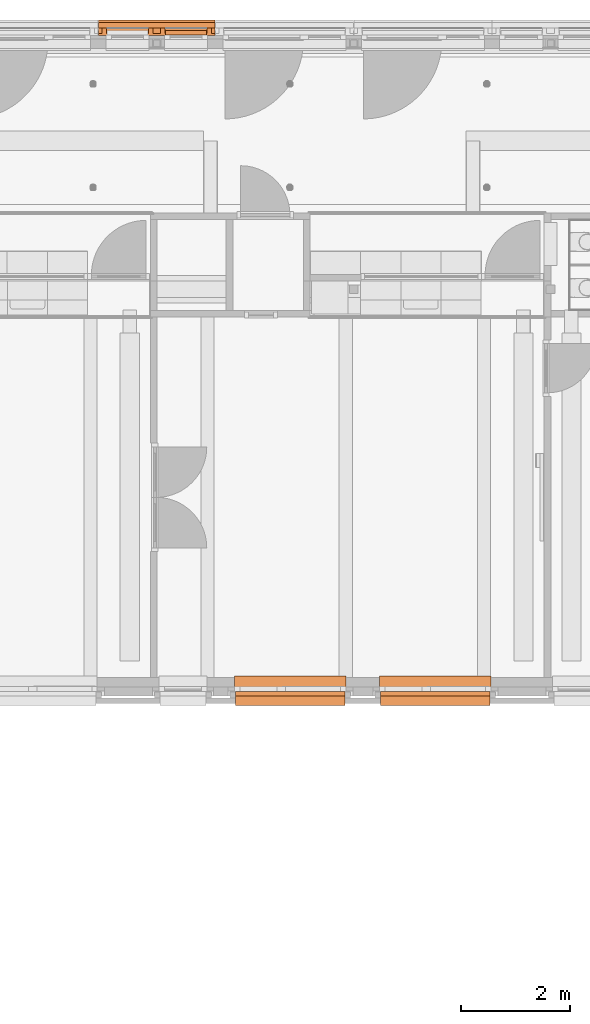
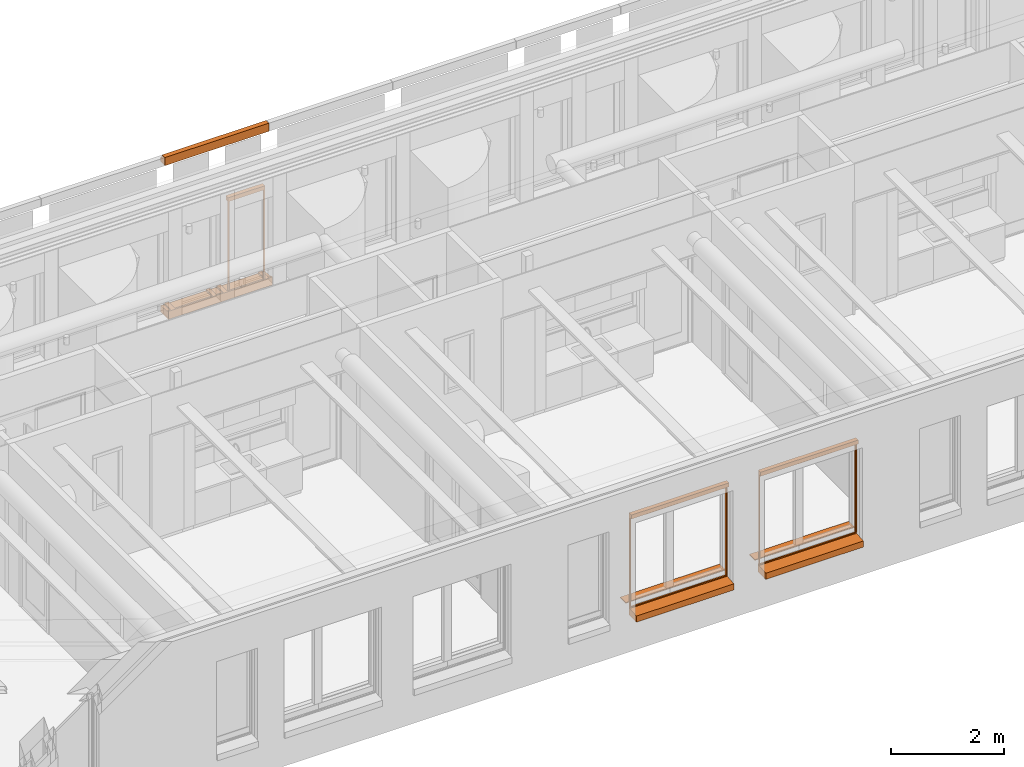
# One storey, part 113 of 128: 9 proxies.
"""IFC2X3 building model written with IfcOpenShell, lengths in millimetres."""

from ifc_helpers import new_model, entity, si_unit, converted_unit, derived_unit, direction, frame, frame_2d, origin, origin_2d_with_axis, place, context, subcontext, project, spatial, polyline, circle_curve, parameter, trimmed, segment, composite_curve, rectangle, outline, extrude, source, transform, mapped, material, material_list, type_object, type_shapes, element, save


model = new_model("IFC2X3")

# Units and contexts
model_context = context("Model", 3, precision=0.01, world=origin(), true_north=direction((6.123031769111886e-17, 1.0)))
body_context = subcontext(model_context, "Body", "Model", "MODEL_VIEW")
ifc_project = project(units=[si_unit("LENGTHUNIT", "METRE", prefix="MILLI"), si_unit("AREAUNIT", "SQUARE_METRE"), si_unit("VOLUMEUNIT", "CUBIC_METRE"), converted_unit("PLANEANGLEUNIT", "DEGREE", entity("IfcRatioMeasure", 0.017453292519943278), si_unit("PLANEANGLEUNIT", "RADIAN"), dimensions=[0, 0, 0, 0, 0, 0, 0]), si_unit("MASSUNIT", "GRAM", prefix="KILO"), derived_unit("MASSDENSITYUNIT", [(si_unit("MASSUNIT", "GRAM", prefix="KILO"), 1), (si_unit("LENGTHUNIT", "METRE"), -3)]), derived_unit("IONCONCENTRATIONUNIT", [(si_unit("MASSUNIT", "GRAM", prefix="KILO"), 1), (si_unit("LENGTHUNIT", "METRE"), -3)]), derived_unit("MOMENTOFINERTIAUNIT", [(si_unit("LENGTHUNIT", "METRE"), 4)]), si_unit("TIMEUNIT", "SECOND"), si_unit("FREQUENCYUNIT", "HERTZ"), si_unit("THERMODYNAMICTEMPERATUREUNIT", "DEGREE_CELSIUS"), derived_unit("THERMALTRANSMITTANCEUNIT", [(si_unit("MASSUNIT", "GRAM", prefix="KILO"), 1), (si_unit("THERMODYNAMICTEMPERATUREUNIT", "KELVIN"), -1), (si_unit("TIMEUNIT", "SECOND"), -3)]), derived_unit("THERMALCONDUCTANCEUNIT", [(si_unit("MASSUNIT", "GRAM", prefix="KILO"), 1), (si_unit("THERMODYNAMICTEMPERATUREUNIT", "KELVIN"), -1), (si_unit("TIMEUNIT", "SECOND"), -3), (si_unit("LENGTHUNIT", "METRE"), 1)]), derived_unit("VOLUMETRICFLOWRATEUNIT", [(si_unit("LENGTHUNIT", "METRE"), 3), (si_unit("TIMEUNIT", "SECOND"), -1)]), derived_unit("MASSFLOWRATEUNIT", [(si_unit("MASSUNIT", "GRAM", prefix="KILO"), 1), (si_unit("TIMEUNIT", "SECOND"), -1)]), derived_unit("ROTATIONALFREQUENCYUNIT", [(si_unit("TIMEUNIT", "SECOND"), -1)]), si_unit("ELECTRICCURRENTUNIT", "AMPERE"), si_unit("ELECTRICVOLTAGEUNIT", "VOLT"), si_unit("POWERUNIT", "WATT"), si_unit("FORCEUNIT", "NEWTON", prefix="KILO"), si_unit("ILLUMINANCEUNIT", "LUX"), si_unit("LUMINOUSFLUXUNIT", "LUMEN"), si_unit("LUMINOUSINTENSITYUNIT", "CANDELA"), derived_unit("USERDEFINED", [(si_unit("MASSUNIT", "GRAM", prefix="KILO"), -1), (si_unit("LENGTHUNIT", "METRE"), -2), (si_unit("TIMEUNIT", "SECOND"), 3), (si_unit("LUMINOUSFLUXUNIT", "LUMEN"), 1)]), derived_unit("USERDEFINED", [(si_unit("MASSUNIT", "GRAM", prefix="KILO"), 1), (si_unit("TIMEUNIT", "SECOND"), -3), (si_unit("LENGTHUNIT", "METRE"), 3), (si_unit("ELECTRICCURRENTUNIT", "AMPERE"), -2)]), derived_unit("SOUNDPOWERUNIT", [(si_unit("MASSUNIT", "GRAM", prefix="KILO"), 1), (si_unit("TIMEUNIT", "SECOND"), -3), (si_unit("LENGTHUNIT", "METRE"), 2)]), derived_unit("SOUNDPRESSUREUNIT", [(si_unit("MASSUNIT", "GRAM", prefix="KILO"), 1), (si_unit("LENGTHUNIT", "METRE"), -1), (si_unit("TIMEUNIT", "SECOND"), -2)]), derived_unit("LINEARVELOCITYUNIT", [(si_unit("LENGTHUNIT", "METRE"), 1), (si_unit("TIMEUNIT", "SECOND"), -1)]), si_unit("PRESSUREUNIT", "PASCAL"), derived_unit("USERDEFINED", [(si_unit("MASSUNIT", "GRAM", prefix="KILO"), 1), (si_unit("LENGTHUNIT", "METRE"), -2), (si_unit("TIMEUNIT", "SECOND"), -2)]), derived_unit("LINEARFORCEUNIT", [(si_unit("MASSUNIT", "GRAM", prefix="KILO"), 1), (si_unit("TIMEUNIT", "SECOND"), -2)]), derived_unit("PLANARFORCEUNIT", [(si_unit("MASSUNIT", "GRAM", prefix="KILO"), 1), (si_unit("LENGTHUNIT", "METRE"), -1), (si_unit("TIMEUNIT", "SECOND"), -2)]), derived_unit("SPECIFICHEATCAPACITYUNIT", [(si_unit("THERMODYNAMICTEMPERATUREUNIT", "KELVIN"), -1), (si_unit("LENGTHUNIT", "METRE"), 2), (si_unit("TIMEUNIT", "SECOND"), -2)]), derived_unit("HEATINGVALUEUNIT", [(si_unit("LENGTHUNIT", "METRE"), 2), (si_unit("TIMEUNIT", "SECOND"), -2)]), derived_unit("VAPORPERMEABILITYUNIT", [(si_unit("LENGTHUNIT", "METRE"), -1), (si_unit("TIMEUNIT", "SECOND"), 1)]), derived_unit("DYNAMICVISCOSITYUNIT", [(si_unit("MASSUNIT", "GRAM", prefix="KILO"), 1), (si_unit("TIMEUNIT", "SECOND"), -1), (si_unit("LENGTHUNIT", "METRE"), -1)]), derived_unit("THERMALEXPANSIONCOEFFICIENTUNIT", [(si_unit("THERMODYNAMICTEMPERATUREUNIT", "KELVIN"), -1)]), derived_unit("MODULUSOFELASTICITYUNIT", [(si_unit("MASSUNIT", "GRAM", prefix="KILO"), 1), (si_unit("LENGTHUNIT", "METRE"), -1), (si_unit("TIMEUNIT", "SECOND"), -2)]), derived_unit("ISOTHERMALMOISTURECAPACITYUNIT", [(si_unit("LENGTHUNIT", "METRE"), 3), (si_unit("MASSUNIT", "GRAM", prefix="KILO"), -1)]), derived_unit("MOISTUREDIFFUSIVITYUNIT", [(si_unit("TIMEUNIT", "SECOND"), -1), (si_unit("LENGTHUNIT", "METRE"), 2)])], contexts=[model_context])

# Site, building, storey
site_placement = place(None, frame((0.0, 300.0, 0.0)))
site = spatial("IfcSite", under=ifc_project, at=site_placement, Name="<Kadastrale nummers>", CompositionType="ELEMENT")
building_placement = place(site_placement, origin())
building = spatial("IfcBuilding", under=site, at=building_placement, CompositionType="ELEMENT")
storey_placement = place(building_placement, frame((0.0, 0.0, 3560.0000331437)))
storey = spatial("IfcBuildingStorey", under=building, at=storey_placement, Name="01 eerste verdieping", CompositionType="ELEMENT", Elevation=3560.0000331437)

# Proxies
ifc_material_1 = material(Name="STAAL_RAL 7006")
ifc_material_2 = material(Name="<Unnamed>")
ifc_material_list = material_list([ifc_material_1, ifc_material_2])
building_element_proxy_type_1 = type_object("IfcBuildingElementProxyType", Name="31_DAT_Screen_zonwering_bak85:31_DAT_Screen_zonwering_bak85", PredefinedType="NOTDEFINED", material=ifc_material_list)
shared_shape_1 = source(origin(), body_context, "Body", "SweptSolid", [
    extrude(outline(polyline([(-60.69864841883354, -53.573897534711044), (20.695945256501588, -53.573897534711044), (20.695945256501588, 1.1216926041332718), (22.501351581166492, 1.1216926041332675), (22.501351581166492, 24.626102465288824), (17.501351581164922, 24.626102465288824), (17.501351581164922, 27.826102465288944), (-60.69864841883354, 27.826102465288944), (-60.69864841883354, -53.573897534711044)])), frame((748.0, -29.62610246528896, 2752.501351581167), z_axis=(1.0, 0.0, 0.0), x_axis=(0.0, 0.0, -1.0)), (0.0, 0.0, 1.0), 1.9999999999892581),
    extrude(outline(polyline([(-55.83243227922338, -51.08259835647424), (29.167567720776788, -51.08259835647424), (29.167567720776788, 5.412991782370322), (27.362161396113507, 5.412991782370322), (27.362161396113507, -49.28259835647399), (-54.032432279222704, -49.28259835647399), (-54.032432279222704, 32.117401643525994), (24.16756772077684, 32.117401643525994), (24.16756772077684, 28.91740164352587), (29.167567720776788, 28.91740164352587), (29.167567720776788, 33.917401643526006), (-55.83243227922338, 33.917401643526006), (-55.83243227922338, -51.08259835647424)])), frame((0.0, -33.917401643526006, 2759.1675677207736), z_axis=(1.0, 0.0, 0.0), x_axis=(0.0, 0.0, -1.0)), (0.0, 0.0, 1.0), 749.9999999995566),
    extrude(outline(polyline([(-60.69864841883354, -53.573897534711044), (20.695945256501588, -53.573897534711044), (20.695945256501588, 1.1216926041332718), (22.501351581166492, 1.1216926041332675), (22.501351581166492, 24.626102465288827), (17.501351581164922, 24.626102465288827), (17.501351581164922, 27.826102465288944), (-60.69864841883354, 27.826102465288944), (-60.69864841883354, -53.573897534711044)])), frame((0.0, -29.62610246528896, 2752.501351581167), z_axis=(1.0, 0.0, 0.0), x_axis=(0.0, 0.0, -1.0)), (0.0, 0.0, 1.0), 1.999999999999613),
    extrude(rectangle(XDim=709.9999999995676, YDim=1.163311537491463, at=frame_2d((0.0, -2.1094237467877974e-15), x_axis=(1.0, 0.0))), frame((375.0, -20.037293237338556, 2730.0)), (0.0, 0.0, 1.0), 61.996041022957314),
    extrude(outline(composite_curve([segment(polyline([(-7.502327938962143, -23.023758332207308), (7.497672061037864, -23.023758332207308)]), True, "CONTINUOUS"), segment(trimmed(circle_curve(frame_2d((7.497672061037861, -21.523758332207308), x_axis=(0.0, -1.0)), 1.4999999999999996), [parameter(359.99999999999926)], [parameter(90.00000000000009)], True, "PARAMETER"), True, "CONTINUOUS"), segment(polyline([(8.997672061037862, -21.523758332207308), (8.997672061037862, 8.976241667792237)]), True, "CONTINUOUS"), segment(trimmed(circle_curve(frame_2d((5.99767206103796, 8.976241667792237), x_axis=(0.0, -1.0)), 3.0), [parameter(90.00000000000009)], [parameter(172.84454900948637)], True, "PARAMETER"), True, "CONTINUOUS"), segment(polyline([(6.371357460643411, 11.952877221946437), (2.232090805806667, 12.470504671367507)]), True, "CONTINUOUS"), segment(trimmed(circle_curve(frame_2d((2.1399803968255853, 11.733933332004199), x_axis=(0.0, -1.0)), 0.7423083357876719), [parameter(172.87199730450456)], [parameter(323.5235343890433)], True, "PARAMETER"), True, "CONTINUOUS"), segment(trimmed(circle_curve(frame_2d((-0.0023279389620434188, 8.976241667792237), x_axis=(0.0, -1.0)), 2.75), [parameter(217.47327986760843)], [parameter(141.78969998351)], True, "PARAMETER"), False, "CONTINUOUS"), segment(trimmed(circle_curve(frame_2d((-2.144636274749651, 11.733933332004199), x_axis=(0.0, -1.0)), 0.7423083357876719), [parameter(39.207114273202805)], [parameter(187.12800269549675)], True, "PARAMETER"), True, "CONTINUOUS"), segment(polyline([(-2.2367466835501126, 12.470504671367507), (-6.376013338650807, 11.95287722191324)]), True, "CONTINUOUS"), segment(trimmed(circle_curve(frame_2d((-6.002327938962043, 8.976241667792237), x_axis=(0.0, -1.0)), 3.0), [parameter(187.1554509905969)], [parameter(269.9999999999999)], True, "PARAMETER"), True, "CONTINUOUS"), segment(polyline([(-9.002327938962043, 8.976241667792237), (-9.002327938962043, -21.523758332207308)]), True, "CONTINUOUS"), segment(trimmed(circle_curve(frame_2d((-7.502327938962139, -21.523758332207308), x_axis=(0.0, -1.0)), 1.5000000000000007), [parameter(269.9999999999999)], [parameter(359.9999999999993)], True, "PARAMETER"), True, "CONTINUOUS")], self_intersect=False)), frame((20.0, -19.997672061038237, 2785.0197993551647), z_axis=(1.0, 0.0, 0.0), x_axis=(0.0, 1.0, 0.0)), (0.0, 0.0, 1.0), 709.9999999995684),
    extrude(outline(polyline([(-14.638298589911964, -16.231574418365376), (-13.138298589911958, -16.231574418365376), (-13.138298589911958, 12.232729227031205), (-6.116685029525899, 12.232729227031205), (-6.116685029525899, -6.231574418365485), (-1.116685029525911, -6.231574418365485), (-1.116685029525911, -4.769580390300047), (-4.579546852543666, -4.769580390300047), (-4.579546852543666, 12.23272922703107), (13.86611127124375, 12.23272922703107), (13.86611127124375, -4.769580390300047), (10.36170141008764, -4.769580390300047), (10.36170141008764, -6.2315744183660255), (15.36170141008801, -6.2315744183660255), (15.36170141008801, 13.768425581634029), (-14.638298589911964, 13.768425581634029), (-14.638298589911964, -16.231574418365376)])), frame((736.2315744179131, -14.638298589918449, 800.0), z_axis=(0.0, 0.0, 1.0), x_axis=(0.0, -1.0, 0.0)), (0.0, 0.0, 1.0), 1930.000000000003),
    extrude(outline(polyline([(-16.231574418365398, -14.638298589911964), (13.768425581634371, -14.638298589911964), (13.76842558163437, 15.361701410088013), (-6.231574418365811, 15.361701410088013), (-6.231574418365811, 10.361701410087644), (-4.769580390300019, 10.361701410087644), (-4.769580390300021, 13.866111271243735), (12.2327292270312, 13.866111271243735), (12.2327292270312, -4.57954685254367), (-4.769580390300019, -4.57954685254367), (-4.769580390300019, -1.1166850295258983), (-6.231574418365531, -1.1166850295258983), (-6.231574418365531, -6.116685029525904), (12.232729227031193, -6.116685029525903), (12.232729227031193, -13.138298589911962), (-16.231574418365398, -13.138298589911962), (-16.231574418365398, -14.638298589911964)])), frame((13.768425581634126, -14.638298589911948, 800.0), z_axis=(0.0, 0.0, 1.0), x_axis=(-1.0, 0.0, 0.0)), (0.0, 0.0, 1.0), 1930.0000000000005),
])
type_shapes(building_element_proxy_type_1, [shared_shape_1])
proxy_1_placement = place(storey_placement, frame((18310.0, 49951.0, 100.00000187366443), z_axis=(0.0, 0.0, 1.0), x_axis=(-1.0, 0.0, 0.0)))
element("IfcBuildingElementProxy", 1, at=proxy_1_placement, inside=storey, type_object=building_element_proxy_type_1, material=ifc_material_list, Name="31_DAT_Screen_zonwering_bak85:31_DAT_Screen_zonwering_bak85", ObjectType="31_DAT_Screen_zonwering_bak85:31_DAT_Screen_zonwering_bak85", context=body_context, shape_type="MappedRepresentation", body=[
    mapped(shared_shape_1, transform((0.0, 0.0, 0.0), scale=1.0)),
])
ifc_material_3 = material(Name="ISR_Beton_prefab")
building_element_proxy_type_2 = type_object("IfcBuildingElementProxyType", Name="29_DAT_Prefab betonnen waterslag kort:29_DAT_Prefab betonnen waterslag kort", PredefinedType="NOTDEFINED", material=ifc_material_3)
shared_shape_2 = source(origin(), body_context, "Body", "SweptSolid", [
    extrude(outline(composite_curve([segment(polyline([(-137.5, -95.62465990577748), (-107.49999999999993, -95.62465990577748)]), True, "CONTINUOUS"), segment(polyline([(-107.49999999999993, -95.62465990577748), (-107.49999999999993, -73.62465990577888)]), True, "CONTINUOUS"), segment(polyline([(-107.49999999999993, -73.62465990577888), (132.50000000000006, -52.627380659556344)]), True, "CONTINUOUS"), segment(polyline([(132.5, -52.627380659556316), (132.5, 79.37534009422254)]), True, "CONTINUOUS"), segment(polyline([(132.5, 79.37534009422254), (117.49999999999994, 79.37534009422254)]), True, "CONTINUOUS"), segment(trimmed(circle_curve(frame_2d((112.49999999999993, 79.37534009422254), x_axis=(1.0, 0.0)), 5.000000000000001), [parameter(179.99999999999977)], [parameter(359.9999999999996)], True, "PARAMETER"), False, "CONTINUOUS"), segment(polyline([(107.49999999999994, 79.37534009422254), (-137.5, 79.37534009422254)]), True, "CONTINUOUS"), segment(polyline([(-137.5, 79.37534009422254), (-137.5, -95.62465990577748)]), True, "CONTINUOUS")], self_intersect=False)), frame((0.0, 82.50000000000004, -95.62465990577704), z_axis=(1.0, 0.0, 0.0), x_axis=(0.0, -1.0, 0.0)), (0.0, 0.0, 1.0), 2000.0000000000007),
])
type_shapes(building_element_proxy_type_2, [shared_shape_2])
for number, where, name in (
    (2, (21490.0, 37735.0, 890.000001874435), "29_DAT_Prefab betonnen waterslag kort:29_DAT_Prefab betonnen waterslag kort"),
    (3, (18840.0, 37735.0, 890.0000018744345), "29_DAT_Prefab betonnen waterslag kort:29_DAT_Prefab betonnen waterslag kort"),
):
    element("IfcBuildingElementProxy", number, at=place(storey_placement, frame(where)), inside=storey, type_object=building_element_proxy_type_2, material=ifc_material_3, Name=name, ObjectType="29_DAT_Prefab betonnen waterslag kort:29_DAT_Prefab betonnen waterslag kort", context=body_context, shape_type="MappedRepresentation", body=[
        mapped(shared_shape_2, transform((0.0, 0.0, 0.0), scale=1.0)),
    ])
building_element_proxy_type_3 = type_object("IfcBuildingElementProxyType", Name="31_DAT_Screen_zonwering_bak85:31_DAT_Screen_zonwering_bak85", PredefinedType="NOTDEFINED", material=ifc_material_list)
shared_shape_3 = source(origin(), body_context, "Body", "SweptSolid", [
    extrude(outline(polyline([(-60.69864841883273, -53.573897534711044), (20.695945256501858, -53.573897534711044), (20.695945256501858, 1.1216926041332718), (22.501351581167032, 1.1216926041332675), (22.501351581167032, 24.626102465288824), (17.501351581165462, 24.626102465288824), (17.501351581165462, 27.826102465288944), (-60.69864841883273, 27.826102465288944), (-60.69864841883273, -53.573897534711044)])), frame((1998.0, -29.62610246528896, 2422.501351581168), z_axis=(1.0, 0.0, 0.0), x_axis=(0.0, 0.0, -1.0)), (0.0, 0.0, 1.0), 1.9999999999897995),
    extrude(outline(polyline([(-55.83243227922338, -51.08259835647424), (29.167567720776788, -51.08259835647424), (29.167567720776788, 5.412991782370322), (27.362161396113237, 5.412991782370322), (27.362161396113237, -49.28259835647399), (-54.032432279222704, -49.28259835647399), (-54.032432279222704, 32.117401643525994), (24.16756772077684, 32.117401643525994), (24.16756772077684, 28.91740164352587), (29.167567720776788, 28.91740164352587), (29.167567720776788, 33.917401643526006), (-55.83243227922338, 33.917401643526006), (-55.83243227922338, -51.08259835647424)])), frame((0.0, -33.917401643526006, 2429.1675677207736), z_axis=(1.0, 0.0, 0.0), x_axis=(0.0, 0.0, -1.0)), (0.0, 0.0, 1.0), 1999.999999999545),
    extrude(outline(polyline([(-60.69864841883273, -53.573897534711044), (20.695945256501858, -53.573897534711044), (20.695945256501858, 1.1216926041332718), (22.501351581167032, 1.1216926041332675), (22.501351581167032, 24.626102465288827), (17.501351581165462, 24.626102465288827), (17.501351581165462, 27.826102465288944), (-60.69864841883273, 27.826102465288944), (-60.69864841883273, -53.573897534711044)])), frame((0.0, -29.62610246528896, 2422.501351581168), z_axis=(1.0, 0.0, 0.0), x_axis=(0.0, 0.0, -1.0)), (0.0, 0.0, 1.0), 1.999999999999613),
    extrude(rectangle(XDim=1959.9999999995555, YDim=1.163311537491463, at=frame_2d((0.0, -2.1094237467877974e-15), x_axis=(1.0, 0.0))), frame((1000.0, -20.037293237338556, 2382.3606486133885)), (0.0, 0.0, 1.0), 17.639351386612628),
    extrude(outline(composite_curve([segment(polyline([(-7.5023279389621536, -23.023758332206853), (7.4976720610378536, -23.023758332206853)]), True, "CONTINUOUS"), segment(trimmed(circle_curve(frame_2d((7.49767206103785, -21.523758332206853), x_axis=(0.0, -1.0)), 1.4999999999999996), [parameter(359.99999999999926)], [parameter(90.00000000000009)], True, "PARAMETER"), True, "CONTINUOUS"), segment(polyline([(8.997672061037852, -21.523758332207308), (8.997672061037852, 8.976241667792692)]), True, "CONTINUOUS"), segment(trimmed(circle_curve(frame_2d((5.9976720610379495, 8.976241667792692), x_axis=(0.0, -1.0)), 3.0), [parameter(90.00000000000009)], [parameter(172.84454900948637)], True, "PARAMETER"), True, "CONTINUOUS"), segment(polyline([(6.3713574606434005, 11.952877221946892), (2.2320908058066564, 12.470504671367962)]), True, "CONTINUOUS"), segment(trimmed(circle_curve(frame_2d((2.1399803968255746, 11.733933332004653), x_axis=(0.0, -1.0)), 0.7423083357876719), [parameter(172.87199730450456)], [parameter(323.5235343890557)], True, "PARAMETER"), True, "CONTINUOUS"), segment(trimmed(circle_curve(frame_2d((-0.002327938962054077, 8.976241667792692), x_axis=(0.0, -1.0)), 2.75), [parameter(217.47327986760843)], [parameter(141.78969998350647)], True, "PARAMETER"), False, "CONTINUOUS"), segment(trimmed(circle_curve(frame_2d((-2.1446362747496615, 11.733933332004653), x_axis=(0.0, -1.0)), 0.7423083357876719), [parameter(39.207114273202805)], [parameter(187.12800269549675)], True, "PARAMETER"), True, "CONTINUOUS"), segment(polyline([(-2.2367466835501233, 12.470504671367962), (-6.376013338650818, 11.952877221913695)]), True, "CONTINUOUS"), segment(trimmed(circle_curve(frame_2d((-6.002327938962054, 8.976241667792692), x_axis=(0.0, -1.0)), 3.0), [parameter(187.1554509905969)], [parameter(269.9999999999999)], True, "PARAMETER"), True, "CONTINUOUS"), segment(polyline([(-9.002327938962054, 8.976241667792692), (-9.002327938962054, -21.523758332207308)]), True, "CONTINUOUS"), segment(trimmed(circle_curve(frame_2d((-7.50232793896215, -21.523758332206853), x_axis=(0.0, -1.0)), 1.5000000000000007), [parameter(269.9999999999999)], [parameter(359.9999999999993)], True, "PARAMETER"), True, "CONTINUOUS")], self_intersect=False)), frame((20.0, -19.997672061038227, 2375.3844069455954), z_axis=(1.0, 0.0, 0.0), x_axis=(0.0, 1.0, 0.0)), (0.0, 0.0, 1.0), 1959.999999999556),
    extrude(outline(polyline([(-14.638298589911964, -16.231574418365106), (-13.138298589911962, -16.231574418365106), (-13.138298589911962, 12.23272922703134), (-6.116685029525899, 12.23272922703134), (-6.116685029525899, -6.231574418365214), (-1.116685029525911, -6.231574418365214), (-1.116685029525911, -4.769580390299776), (-4.579546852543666, -4.769580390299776), (-4.579546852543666, 12.23272922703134), (13.86611127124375, 12.23272922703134), (13.86611127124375, -4.769580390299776), (10.36170141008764, -4.769580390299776), (10.36170141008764, -6.2315744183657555), (15.36170141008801, -6.2315744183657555), (15.36170141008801, 13.7684255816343), (-14.638298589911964, 13.7684255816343), (-14.638298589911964, -16.231574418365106)])), frame((1986.2315744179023, -14.638298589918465, 450.0), z_axis=(0.0, 0.0, 1.0), x_axis=(0.0, -1.0, 0.0)), (0.0, 0.0, 1.0), 1950.0000000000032),
    extrude(outline(polyline([(-16.231574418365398, -14.638298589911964), (13.768425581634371, -14.638298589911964), (13.76842558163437, 15.361701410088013), (-6.231574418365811, 15.361701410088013), (-6.231574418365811, 10.361701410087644), (-4.769580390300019, 10.361701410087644), (-4.769580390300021, 13.866111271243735), (12.2327292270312, 13.866111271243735), (12.2327292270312, -4.57954685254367), (-4.769580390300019, -4.57954685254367), (-4.769580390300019, -1.1166850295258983), (-6.231574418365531, -1.1166850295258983), (-6.231574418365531, -6.116685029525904), (12.232729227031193, -6.116685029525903), (12.232729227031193, -13.138298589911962), (-16.231574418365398, -13.138298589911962), (-16.231574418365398, -14.638298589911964)])), frame((13.768425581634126, -14.638298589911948, 450.0), z_axis=(0.0, 0.0, 1.0), x_axis=(-1.0, 0.0, 0.0)), (0.0, 0.0, 1.0), 1950.0000000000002),
])
type_shapes(building_element_proxy_type_3, [shared_shape_3])
for number, where, name in (
    (4, (21490.0, 37948.99862327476, 440.0000018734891), "31_DAT_Screen_zonwering_bak85:31_DAT_Screen_zonwering_bak85"),
    (5, (18840.0, 37948.99862327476, 440.0000018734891), "31_DAT_Screen_zonwering_bak85:31_DAT_Screen_zonwering_bak85"),
):
    element("IfcBuildingElementProxy", number, at=place(storey_placement, frame(where)), inside=storey, type_object=building_element_proxy_type_3, material=ifc_material_list, Name=name, ObjectType="31_DAT_Screen_zonwering_bak85:31_DAT_Screen_zonwering_bak85", context=body_context, shape_type="MappedRepresentation", body=[
        mapped(shared_shape_3, transform((0.0, 0.0, 0.0), scale=1.0)),
    ])
ifc_material_4 = material(Name="e1_natuursteen")
building_element_proxy_type_4 = type_object("IfcBuildingElementProxyType", Name="NLRS_31_GM_WPB_vensterbank natuursteen -SH_gen_ASN:200x18", PredefinedType="USERDEFINED", material=ifc_material_4)
shared_shape_4 = source(origin(), body_context, "Body", "SweptSolid", [
    extrude(rectangle(XDim=200.0, YDim=2040.0000000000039, at=origin_2d_with_axis()), frame((0.0, -100.0, 0.0), z_axis=(0.0, 0.0, 1.0), x_axis=(0.0, -1.0, 0.0)), (0.0, 0.0, 1.0), 17.999999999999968),
])
type_shapes(building_element_proxy_type_4, [shared_shape_4])
for number, where, z_axis, x_axis, name in (
    (6, (22490.0, 38030.0, 920.0000018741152), (0.0, 0.0, 1.0), (-1.0, 0.0, 0.0), "NLRS_31_GM_WPB_vensterbank natuursteen -SH_gen_ASN:200x18"),
    (7, (19840.0, 38030.0, 920.0000018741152), (0.0, 0.0, 1.0), (-1.0, 0.0, 0.0), "NLRS_31_GM_WPB_vensterbank natuursteen -SH_gen_ASN:200x18"),
):
    element("IfcBuildingElementProxy", number, at=place(storey_placement, frame(where, z_axis=z_axis, x_axis=x_axis)), inside=storey, type_object=building_element_proxy_type_4, material=ifc_material_4, Name=name, ObjectType="NLRS_31_GM_WPB_vensterbank natuursteen -SH_gen_ASN:200x18", context=body_context, shape_type="MappedRepresentation", body=[
        mapped(shared_shape_4, transform((0.0, 0.0, 0.0), scale=1.0)),
    ])
building_element_proxy_type_5 = type_object("IfcBuildingElementProxyType", Name="29_DAT_Prefab betonnen waterslag lang:29 dubbel 1", PredefinedType="NOTDEFINED", material=ifc_material_3)
shared_shape_5 = source(origin(), body_context, "Body", "SweptSolid", [
    extrude(outline(polyline([(-16.052237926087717, -115.0), (26.113434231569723, -115.0), (5.9910416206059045, 115.0), (-16.052237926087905, 115.0), (-16.052237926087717, -115.0)])), frame((1987.0, 75.0, -16.05223792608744), z_axis=(1.0, 0.0, 0.0), x_axis=(0.0, 0.0, -1.0)), (0.0, 0.0, 1.0), 79.99999999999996),
    extrude(outline(polyline([(-16.052237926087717, -115.0), (26.113434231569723, -115.0), (5.9910416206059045, 115.0), (-16.052237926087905, 115.0), (-16.052237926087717, -115.0)])), frame((1137.0, 75.0, -16.05223792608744), z_axis=(1.0, 0.0, 0.0), x_axis=(0.0, 0.0, -1.0)), (0.0, 0.0, 1.0), 79.99999999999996),
    extrude(outline(polyline([(-16.052237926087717, -115.0), (26.113434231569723, -115.0), (5.9910416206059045, 115.0), (-16.052237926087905, 115.0), (-16.052237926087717, -115.0)])), frame((917.0, 75.0, -16.05223792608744), z_axis=(1.0, 0.0, 0.0), x_axis=(0.0, 0.0, -1.0)), (0.0, 0.0, 1.0), 79.99999999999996),
    extrude(outline(polyline([(-16.052237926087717, -115.0), (26.113434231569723, -115.0), (5.9910416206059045, 115.0), (-16.052237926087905, 115.0), (-16.052237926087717, -115.0)])), frame((67.0, 75.0, -16.05223792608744), z_axis=(1.0, 0.0, 0.0), x_axis=(0.0, 0.0, -1.0)), (0.0, 0.0, 1.0), 80.00000000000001),
    extrude(outline(composite_curve([segment(polyline([(-140.0, -95.7340207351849), (-110.0, -95.7340207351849)]), True, "CONTINUOUS"), segment(polyline([(-110.0, -95.7340207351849), (-110.0, -73.7340207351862)]), True, "CONTINUOUS"), segment(polyline([(-110.0, -73.7340207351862), (140.0, -51.861854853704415)]), True, "CONTINUOUS"), segment(polyline([(140.0, -51.86185485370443), (140.0, 79.26597926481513)]), True, "CONTINUOUS"), segment(polyline([(140.0, 79.26597926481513), (115.0, 79.26597926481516)]), True, "CONTINUOUS"), segment(trimmed(circle_curve(frame_2d((110.0, 79.26597926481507), x_axis=(1.0, 0.0)), 5.000000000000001), [parameter(179.99999999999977)], [parameter(4.0711099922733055e-13)], True, "PARAMETER"), False, "CONTINUOUS"), segment(polyline([(105.0, 79.26597926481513), (-140.0, 79.26597926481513)]), True, "CONTINUOUS"), segment(polyline([(-140.0, 79.26597926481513), (-140.0, -95.7340207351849)]), True, "CONTINUOUS")], self_intersect=False)), frame((0.0, 80.0, -95.73402073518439), z_axis=(1.0, 0.0, 0.0), x_axis=(0.0, -1.0, 0.0)), (0.0, 0.0, 1.0), 2134.0000000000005),
])
type_shapes(building_element_proxy_type_5, [shared_shape_5])
proxy_2_placement = place(storey_placement, frame((18467.0, 50165.0, 890.0000018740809), z_axis=(0.0, 0.0, 1.0), x_axis=(-1.0, 0.0, 0.0)))
element("IfcBuildingElementProxy", 8, at=proxy_2_placement, inside=storey, type_object=building_element_proxy_type_5, material=ifc_material_3, Name="29_DAT_Prefab betonnen waterslag lang:29 dubbel 1", ObjectType="29_DAT_Prefab betonnen waterslag lang:29 dubbel 1", context=body_context, shape_type="MappedRepresentation", body=[
    mapped(shared_shape_5, transform((0.0, 0.0, 0.0), scale=1.0)),
])
building_element_proxy_type_6 = type_object("IfcBuildingElementProxyType", Name="29_DAT_Prefab betonband afgeschuind:29_DAT_Prefab betonband afgeschuind", PredefinedType="NOTDEFINED", material=ifc_material_3)
shared_shape_6 = source(origin(), body_context, "Body", "SweptSolid", [
    extrude(outline(polyline([(-94.16666666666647, -83.33333333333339), (80.83333333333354, -83.33333333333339), (80.83333333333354, 16.66666666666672), (18.33333333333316, 16.666666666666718), (8.333333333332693, 66.66666666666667), (-94.16666666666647, 66.66666666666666), (-94.16666666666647, -83.33333333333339)])), frame((0.0, 16.66666666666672, -18.33333333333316), z_axis=(1.0, 0.0, 0.0), x_axis=(0.0, 0.0, 1.0)), (0.0, 0.0, 1.0), 2133.999999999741),
])
type_shapes(building_element_proxy_type_6, [shared_shape_6])
proxy_3_placement = place(storey_placement, frame((18467.0, 50175.0, 4077.499966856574), z_axis=(0.0, 0.0, 1.0), x_axis=(-1.0, 0.0, 0.0)))
element("IfcBuildingElementProxy", 9, at=proxy_3_placement, inside=storey, type_object=building_element_proxy_type_6, material=ifc_material_3, Name="29_DAT_Prefab betonband afgeschuind:29_DAT_Prefab betonband afgeschuind", ObjectType="29_DAT_Prefab betonband afgeschuind:29_DAT_Prefab betonband afgeschuind", context=body_context, shape_type="MappedRepresentation", body=[
    mapped(shared_shape_6, transform((0.0, 0.0, 0.0), scale=1.0)),
])

save(model, "model.ifc")
